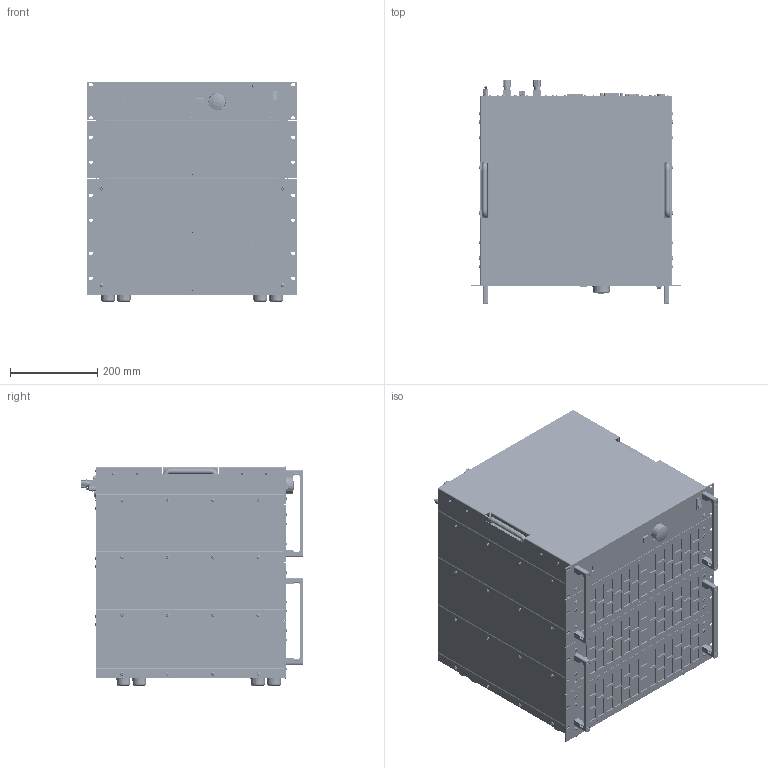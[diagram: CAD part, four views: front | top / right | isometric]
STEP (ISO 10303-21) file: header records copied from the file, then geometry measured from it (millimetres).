
FILE_DESCRIPTION(('STEP AP214'),'1');
FILE_NAME('QL_M32_19Z_11HE_BPK4_60L_3D_01.step','2022-03-16T08:16:32',(' '),(' '),'Spatial InterOp 3D',' ',' ');
FILE_SCHEMA(('AUTOMOTIVE_DESIGN { 1 0 10303 214 1 1 1 1 }'));
Length unit declared in the file: millimetre
Products named in the file (40): 3HE_Leistungsteil_mit_Gummifüssen_3D_01; *U404; *U405; *U406; *U415; AutoCreatedBlock_4310; 3HE_Leistungsteil_3D_01; *U715; *U716; *U717; AutoCreatedBlock_4336; DIN 966-A; Steuereinheit_BPK4_60L_mit_BG452_3D_01; 2121_Steuerteil_modular_Seitenteil_links_3D_02; 2122_Steuerteil_modular_Seitenteil_rechts_3D_02; A$C5EF2ED09; 3xM2.5_5x5x12; AutoCreatedBlock_4356; A$C6092449D; Frontplatte_5HE_Steuerteil_mit_Einbauten_3D; A$C60925E47; A$C60A76697; 2246_QL Rückwand Steuerteil 5HE_mit_Einbauten_3D_01; *U305; *U306; *U307; AutoCreatedBlock_4368; 2257_QL_IO Panel Standard_3D_01; 2084_IO-Port Abdeckung_3D_01; *U725; *U726; *U727; *U728; *U729; BG452_mit_MT1955_3D_01; *U685; AutoCreatedBlock_4390; AutoCreatedBlock_4346; AutoCreatedBlock_4306
Assembly tree (153 placements, depth 4):
  (unnamed)
    3HE_Leistungsteil_mit_Gummifüssen_3D_01
      *U404  x10
      *U405  x6
      *U406  x6
      *U415  x6
      AutoCreatedBlock_4310
    3HE_Leistungsteil_3D_01  x2
      *U715
      *U716
      *U717
      AutoCreatedBlock_4336
    DIN 966-A  x8
    Steuereinheit_BPK4_60L_mit_BG452_3D_01
      2121_Steuerteil_modular_Seitenteil_links_3D_02
      2122_Steuerteil_modular_Seitenteil_rechts_3D_02
      A$C5EF2ED09
        3xM2.5_5x5x12  x2
        AutoCreatedBlock_4356
      A$C6092449D
      Frontplatte_5HE_Steuerteil_mit_Einbauten_3D
      A$C60925E47
      A$C60A76697
      2246_QL Rückwand Steuerteil 5HE_mit_Einbauten_3D_01
        *U305
        *U306  x2
        *U307  x3
        AutoCreatedBlock_4368
      2257_QL_IO Panel Standard_3D_01
      2084_IO-Port Abdeckung_3D_01  x2
      *U725  x17
      *U726  x9
      *U727  x26
      *U728  x2
      *U729  x4
      BG452_mit_MT1955_3D_01
        *U685  x2
        AutoCreatedBlock_4390
      AutoCreatedBlock_4346
    AutoCreatedBlock_4306
Bounding box: 482.61 x 511.97 x 504.57 mm (x, y, z)
Volume: 42913496.1 mm3; surface area: 5953478.5 mm2
Topology: 439 solids, 1208 shells, 30053 faces, 77195 edges, 49320 vertices
Faces by surface type: plane 13634, cone 10809, cylinder 4508, torus 471, sphere 340, bspline 269, extrusion 22
Entity records: 834466 total; most frequent: CARTESIAN_POINT 153276, DIRECTION 109761, ORIENTED_EDGE 102310, EDGE_CURVE 52561, AXIS2_PLACEMENT_3D 37662, VECTOR 34437, LINE 34415, VERTEX_POINT 33376
